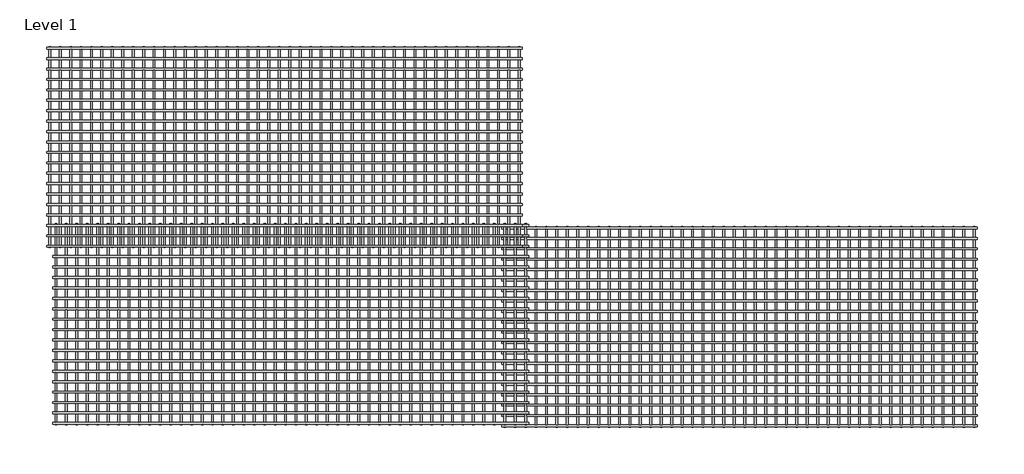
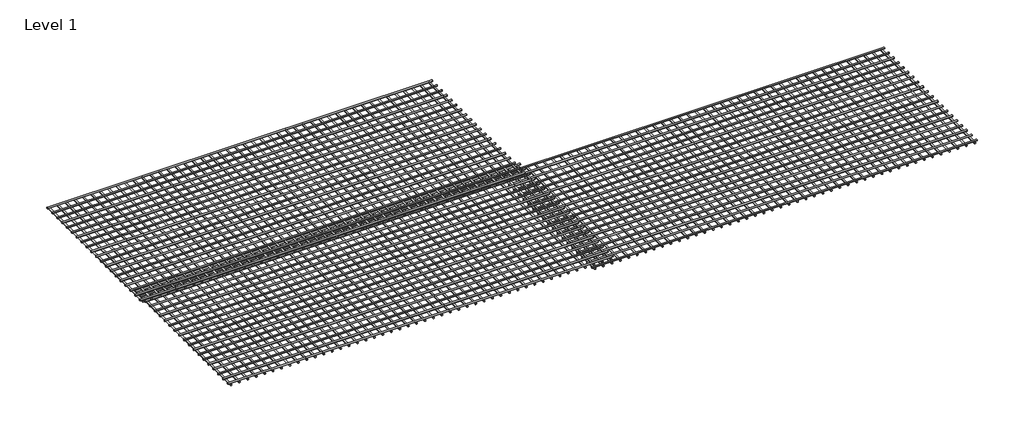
# One storey: 3 proxies.
"""IFC4 building model written with IfcOpenShell, lengths in millimetres."""

from ifc_helpers import new_model, si_unit, origin, place, context, project, spatial, transform, mapped, element, save
from components import united_steel_ductile_se91_small_mesh_united_steel_ductile_885aa156

model = new_model("IFC4")

# Units and contexts
model_context = context("Model", 3, world=origin())
ifc_project = project(units=[si_unit("LENGTHUNIT", "METRE", prefix="MILLI")], contexts=[model_context])

# Site, building, storey
site = spatial("IfcSite", under=ifc_project)
building = spatial("IfcBuilding", under=site)
storey = spatial("IfcBuildingStorey", under=building, Name="Level 1", Elevation=0.0)

# Proxies
placement = place(None, origin())
united_steel_ductile_se91_small_mesh_united_steel_ductile_shape = united_steel_ductile_se91_small_mesh_united_steel_ductile_885aa156(model_context)
element("IfcBuildingElementProxy", 1, Name="United Steel Ductile SE91 Small Mesh : United Steel Ductile SE91 Small Mesh", ObjectType="United Steel Ductile SE91 Small Mesh : United Steel Ductile SE91 Small Mesh", at=placement, inside=storey, context=model_context, shape_type="MappedRepresentation", body=[
    mapped(united_steel_ductile_se91_small_mesh_united_steel_ductile_shape, transform((5546.2856589, 2167.2532499, 84.375), x_axis=(1.0, 0.0, 0.0), y_axis=(0.0, 1.0, 0.0), z_axis=(0.0, 0.0, 1.0))),
])
element("IfcBuildingElementProxy", 2, Name="United Steel Ductile SE91 Small Mesh : United Steel Ductile SE91 Small Mesh", ObjectType="United Steel Ductile SE91 Small Mesh : United Steel Ductile SE91 Small Mesh", at=placement, inside=storey, context=model_context, shape_type="MappedRepresentation", body=[
    mapped(united_steel_ductile_se91_small_mesh_united_steel_ductile_shape, transform((5486.2856589, 3867.0074308, 120.0), x_axis=(1.0, 0.0, 0.0), y_axis=(0.0, 1.0, 0.0), z_axis=(0.0, 0.0, 1.0))),
])
element("IfcBuildingElementProxy", 3, Name="United Steel Ductile SE91 Small Mesh : United Steel Ductile SE91 Small Mesh", ObjectType="United Steel Ductile SE91 Small Mesh : United Steel Ductile SE91 Small Mesh", at=placement, inside=storey, context=model_context, shape_type="MappedRepresentation", body=[
    mapped(united_steel_ductile_se91_small_mesh_united_steel_ductile_shape, transform((9846.1955059, 2142.5757703, 48.75), x_axis=(1.0, 0.0, 0.0), y_axis=(0.0, 1.0, 0.0), z_axis=(0.0, 0.0, 1.0))),
])

save(model, "model.ifc")
